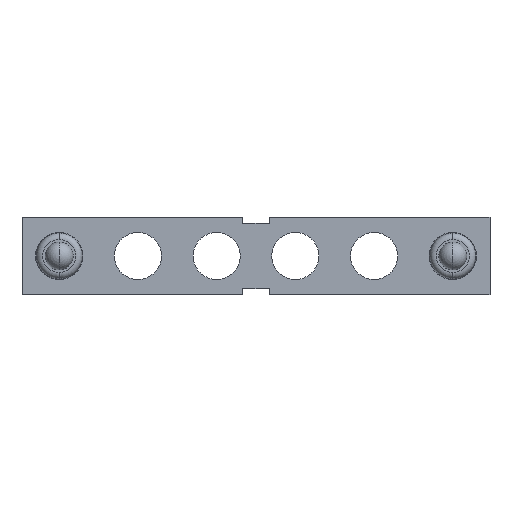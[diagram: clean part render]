
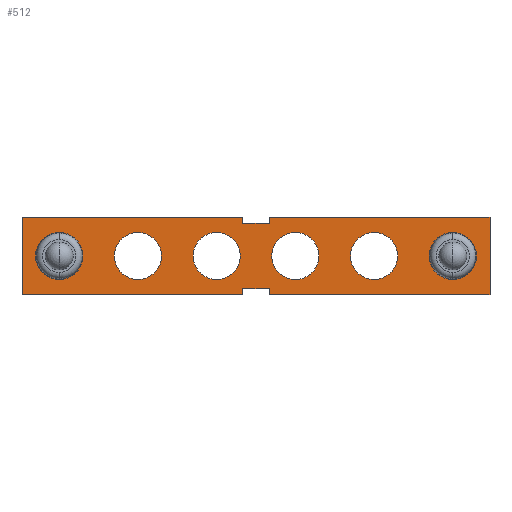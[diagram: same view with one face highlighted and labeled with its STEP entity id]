
A CAD part, left-side view. The second image highlights one B-rep face of the part: STEP entity #512.
In plain terms, the highlighted planar face has unit normal (-1, 0, 0).
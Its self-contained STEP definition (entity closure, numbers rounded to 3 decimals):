
#1=CARTESIAN_POINT('',(0.,6.35,0.));
#2=DIRECTION('',(-1.,0.,0.));
#3=DIRECTION('',(0.,-1.,0.));
#4=AXIS2_PLACEMENT_3D('',#1,#2,#3);
#6=CARTESIAN_POINT('',(0.,6.35,0.));
#7=DIRECTION('',(-1.,0.,0.));
#8=DIRECTION('',(0.,1.,0.));
#9=AXIS2_PLACEMENT_3D('',#6,#7,#8);
#11=CARTESIAN_POINT('',(0.,3.81,0.));
#12=DIRECTION('',(-1.,0.,0.));
#13=DIRECTION('',(0.,-1.,0.));
#14=AXIS2_PLACEMENT_3D('',#11,#12,#13);
#16=CARTESIAN_POINT('',(0.,3.81,0.));
#17=DIRECTION('',(-1.,0.,0.));
#18=DIRECTION('',(0.,1.,0.));
#19=AXIS2_PLACEMENT_3D('',#16,#17,#18);
#21=CARTESIAN_POINT('',(0.,1.27,0.));
#22=DIRECTION('',(-1.,0.,0.));
#23=DIRECTION('',(0.,-1.,0.));
#24=AXIS2_PLACEMENT_3D('',#21,#22,#23);
#26=CARTESIAN_POINT('',(0.,1.27,0.));
#27=DIRECTION('',(-1.,0.,0.));
#28=DIRECTION('',(0.,1.,0.));
#29=AXIS2_PLACEMENT_3D('',#26,#27,#28);
#31=CARTESIAN_POINT('',(0.,-1.27,0.));
#32=DIRECTION('',(-1.,0.,0.));
#33=DIRECTION('',(0.,-1.,0.));
#34=AXIS2_PLACEMENT_3D('',#31,#32,#33);
#36=CARTESIAN_POINT('',(0.,-1.27,0.));
#37=DIRECTION('',(-1.,0.,0.));
#38=DIRECTION('',(0.,1.,0.));
#39=AXIS2_PLACEMENT_3D('',#36,#37,#38);
#41=CARTESIAN_POINT('',(0.,-3.81,0.));
#42=DIRECTION('',(-1.,0.,0.));
#43=DIRECTION('',(0.,-1.,0.));
#44=AXIS2_PLACEMENT_3D('',#41,#42,#43);
#46=CARTESIAN_POINT('',(0.,-3.81,0.));
#47=DIRECTION('',(-1.,0.,0.));
#48=DIRECTION('',(0.,1.,0.));
#49=AXIS2_PLACEMENT_3D('',#46,#47,#48);
#51=CARTESIAN_POINT('',(0.,-6.35,0.));
#52=DIRECTION('',(-1.,0.,0.));
#53=DIRECTION('',(0.,-1.,0.));
#54=AXIS2_PLACEMENT_3D('',#51,#52,#53);
#56=CARTESIAN_POINT('',(0.,-6.35,0.));
#57=DIRECTION('',(-1.,0.,0.));
#58=DIRECTION('',(0.,1.,0.));
#59=AXIS2_PLACEMENT_3D('',#56,#57,#58);
#61=DIRECTION('',(0.,-1.,0.));
#62=VECTOR('',#61,7.1);
#63=CARTESIAN_POINT('',(0.,7.55,1.25));
#64=LINE('',#63,#62);
#65=DIRECTION('',(0.,0.,-1.));
#66=VECTOR('',#65,0.2);
#67=CARTESIAN_POINT('',(0.,0.45,1.25));
#68=LINE('',#67,#66);
#69=DIRECTION('',(0.,-1.,0.));
#70=VECTOR('',#69,0.45);
#71=CARTESIAN_POINT('',(0.,0.45,1.05));
#72=LINE('',#71,#70);
#73=DIRECTION('',(0.,-1.,0.));
#74=VECTOR('',#73,0.45);
#75=CARTESIAN_POINT('',(0.,0.,1.05));
#76=LINE('',#75,#74);
#77=DIRECTION('',(0.,0.,1.));
#78=VECTOR('',#77,0.2);
#79=CARTESIAN_POINT('',(0.,-0.45,1.05));
#80=LINE('',#79,#78);
#81=DIRECTION('',(0.,-1.,0.));
#82=VECTOR('',#81,7.1);
#83=CARTESIAN_POINT('',(0.,-0.45,1.25));
#84=LINE('',#83,#82);
#85=DIRECTION('',(0.,0.,-1.));
#86=VECTOR('',#85,2.5);
#87=CARTESIAN_POINT('',(0.,-7.55,1.25));
#88=LINE('',#87,#86);
#89=DIRECTION('',(0.,1.,0.));
#90=VECTOR('',#89,7.1);
#91=CARTESIAN_POINT('',(0.,-7.55,-1.25));
#92=LINE('',#91,#90);
#93=DIRECTION('',(0.,0.,1.));
#94=VECTOR('',#93,0.2);
#95=CARTESIAN_POINT('',(0.,-0.45,-1.25));
#96=LINE('',#95,#94);
#97=DIRECTION('',(0.,1.,0.));
#98=VECTOR('',#97,0.45);
#99=CARTESIAN_POINT('',(0.,-0.45,-1.05));
#100=LINE('',#99,#98);
#101=DIRECTION('',(0.,1.,0.));
#102=VECTOR('',#101,0.45);
#103=CARTESIAN_POINT('',(0.,0.,-1.05));
#104=LINE('',#103,#102);
#105=DIRECTION('',(0.,0.,-1.));
#106=VECTOR('',#105,0.2);
#107=CARTESIAN_POINT('',(0.,0.45,-1.05));
#108=LINE('',#107,#106);
#109=DIRECTION('',(0.,1.,0.));
#110=VECTOR('',#109,7.1);
#111=CARTESIAN_POINT('',(0.,0.45,-1.25));
#112=LINE('',#111,#110);
#113=DIRECTION('',(0.,0.,1.));
#114=VECTOR('',#113,2.5);
#115=CARTESIAN_POINT('',(0.,7.55,-1.25));
#116=LINE('',#115,#114);
#337=CARTESIAN_POINT('',(0.,5.59,0.));
#338=CARTESIAN_POINT('',(0.,7.11,0.));
#339=VERTEX_POINT('',#337);
#340=VERTEX_POINT('',#338);
#341=CARTESIAN_POINT('',(0.,3.05,0.));
#342=CARTESIAN_POINT('',(0.,4.57,0.));
#343=VERTEX_POINT('',#341);
#344=VERTEX_POINT('',#342);
#345=CARTESIAN_POINT('',(0.,0.51,0.));
#346=CARTESIAN_POINT('',(0.,2.03,0.));
#347=VERTEX_POINT('',#345);
#348=VERTEX_POINT('',#346);
#349=CARTESIAN_POINT('',(0.,-2.03,0.));
#350=CARTESIAN_POINT('',(0.,-0.51,0.));
#351=VERTEX_POINT('',#349);
#352=VERTEX_POINT('',#350);
#353=CARTESIAN_POINT('',(0.,-4.57,0.));
#354=CARTESIAN_POINT('',(0.,-3.05,0.));
#355=VERTEX_POINT('',#353);
#356=VERTEX_POINT('',#354);
#357=CARTESIAN_POINT('',(0.,-7.11,0.));
#358=CARTESIAN_POINT('',(0.,-5.59,0.));
#359=VERTEX_POINT('',#357);
#360=VERTEX_POINT('',#358);
#361=CARTESIAN_POINT('',(0.,7.55,1.25));
#362=CARTESIAN_POINT('',(0.,0.45,1.25));
#363=VERTEX_POINT('',#361);
#364=VERTEX_POINT('',#362);
#365=CARTESIAN_POINT('',(0.,0.45,1.05));
#366=VERTEX_POINT('',#365);
#367=CARTESIAN_POINT('',(0.,0.,1.05));
#368=VERTEX_POINT('',#367);
#369=CARTESIAN_POINT('',(0.,-0.45,1.05));
#370=VERTEX_POINT('',#369);
#371=CARTESIAN_POINT('',(0.,-0.45,1.25));
#372=VERTEX_POINT('',#371);
#373=CARTESIAN_POINT('',(0.,-7.55,1.25));
#374=VERTEX_POINT('',#373);
#375=CARTESIAN_POINT('',(0.,-7.55,-1.25));
#376=VERTEX_POINT('',#375);
#377=CARTESIAN_POINT('',(0.,-0.45,-1.25));
#378=VERTEX_POINT('',#377);
#379=CARTESIAN_POINT('',(0.,-0.45,-1.05));
#380=VERTEX_POINT('',#379);
#381=CARTESIAN_POINT('',(0.,0.,-1.05));
#382=VERTEX_POINT('',#381);
#383=CARTESIAN_POINT('',(0.,0.45,-1.05));
#384=VERTEX_POINT('',#383);
#385=CARTESIAN_POINT('',(0.,0.45,-1.25));
#386=VERTEX_POINT('',#385);
#387=CARTESIAN_POINT('',(0.,7.55,-1.25));
#388=VERTEX_POINT('',#387);
#441=CARTESIAN_POINT('',(0.,0.,0.));
#442=DIRECTION('',(1.,0.,0.));
#443=DIRECTION('',(0.,-1.,0.));
#444=AXIS2_PLACEMENT_3D('',#441,#442,#443);
#445=PLANE('',#444);
#447=ORIENTED_EDGE('',*,*,#446,.T.);
#449=ORIENTED_EDGE('',*,*,#448,.T.);
#451=ORIENTED_EDGE('',*,*,#450,.T.);
#453=ORIENTED_EDGE('',*,*,#452,.T.);
#455=ORIENTED_EDGE('',*,*,#454,.T.);
#457=ORIENTED_EDGE('',*,*,#456,.T.);
#459=ORIENTED_EDGE('',*,*,#458,.T.);
#461=ORIENTED_EDGE('',*,*,#460,.T.);
#463=ORIENTED_EDGE('',*,*,#462,.T.);
#465=ORIENTED_EDGE('',*,*,#464,.T.);
#467=ORIENTED_EDGE('',*,*,#466,.T.);
#469=ORIENTED_EDGE('',*,*,#468,.T.);
#471=ORIENTED_EDGE('',*,*,#470,.T.);
#473=ORIENTED_EDGE('',*,*,#472,.T.);
#474=EDGE_LOOP('',(#447,#449,#451,#453,#455,#457,#459,#461,#463,#465,#467,#469,
#471,#473));
#475=FACE_OUTER_BOUND('',#474,.F.);
#477=ORIENTED_EDGE('',*,*,#476,.T.);
#479=ORIENTED_EDGE('',*,*,#478,.T.);
#480=EDGE_LOOP('',(#477,#479));
#481=FACE_BOUND('',#480,.F.);
#483=ORIENTED_EDGE('',*,*,#482,.T.);
#485=ORIENTED_EDGE('',*,*,#484,.T.);
#486=EDGE_LOOP('',(#483,#485));
#487=FACE_BOUND('',#486,.F.);
#489=ORIENTED_EDGE('',*,*,#488,.T.);
#491=ORIENTED_EDGE('',*,*,#490,.T.);
#492=EDGE_LOOP('',(#489,#491));
#493=FACE_BOUND('',#492,.F.);
#495=ORIENTED_EDGE('',*,*,#494,.T.);
#497=ORIENTED_EDGE('',*,*,#496,.T.);
#498=EDGE_LOOP('',(#495,#497));
#499=FACE_BOUND('',#498,.F.);
#501=ORIENTED_EDGE('',*,*,#500,.T.);
#503=ORIENTED_EDGE('',*,*,#502,.T.);
#504=EDGE_LOOP('',(#501,#503));
#505=FACE_BOUND('',#504,.F.);
#507=ORIENTED_EDGE('',*,*,#506,.T.);
#509=ORIENTED_EDGE('',*,*,#508,.T.);
#510=EDGE_LOOP('',(#507,#509));
#511=FACE_BOUND('',#510,.F.);
#512=ADVANCED_FACE('',(#475,#481,#487,#493,#499,#505,#511),#445,.F.);
#5=CIRCLE('',#4,0.76);
#10=CIRCLE('',#9,0.76);
#15=CIRCLE('',#14,0.76);
#20=CIRCLE('',#19,0.76);
#25=CIRCLE('',#24,0.76);
#30=CIRCLE('',#29,0.76);
#35=CIRCLE('',#34,0.76);
#40=CIRCLE('',#39,0.76);
#45=CIRCLE('',#44,0.76);
#50=CIRCLE('',#49,0.76);
#55=CIRCLE('',#54,0.76);
#60=CIRCLE('',#59,0.76);
#446=EDGE_CURVE('',#363,#364,#64,.T.);
#448=EDGE_CURVE('',#364,#366,#68,.T.);
#450=EDGE_CURVE('',#366,#368,#72,.T.);
#452=EDGE_CURVE('',#368,#370,#76,.T.);
#454=EDGE_CURVE('',#370,#372,#80,.T.);
#456=EDGE_CURVE('',#372,#374,#84,.T.);
#458=EDGE_CURVE('',#374,#376,#88,.T.);
#460=EDGE_CURVE('',#376,#378,#92,.T.);
#462=EDGE_CURVE('',#378,#380,#96,.T.);
#464=EDGE_CURVE('',#380,#382,#100,.T.);
#466=EDGE_CURVE('',#382,#384,#104,.T.);
#468=EDGE_CURVE('',#384,#386,#108,.T.);
#470=EDGE_CURVE('',#386,#388,#112,.T.);
#472=EDGE_CURVE('',#388,#363,#116,.T.);
#476=EDGE_CURVE('',#343,#344,#15,.T.);
#478=EDGE_CURVE('',#344,#343,#20,.T.);
#482=EDGE_CURVE('',#347,#348,#25,.T.);
#484=EDGE_CURVE('',#348,#347,#30,.T.);
#488=EDGE_CURVE('',#351,#352,#35,.T.);
#490=EDGE_CURVE('',#352,#351,#40,.T.);
#494=EDGE_CURVE('',#355,#356,#45,.T.);
#496=EDGE_CURVE('',#356,#355,#50,.T.);
#500=EDGE_CURVE('',#359,#360,#55,.T.);
#502=EDGE_CURVE('',#360,#359,#60,.T.);
#506=EDGE_CURVE('',#339,#340,#5,.T.);
#508=EDGE_CURVE('',#340,#339,#10,.T.);
